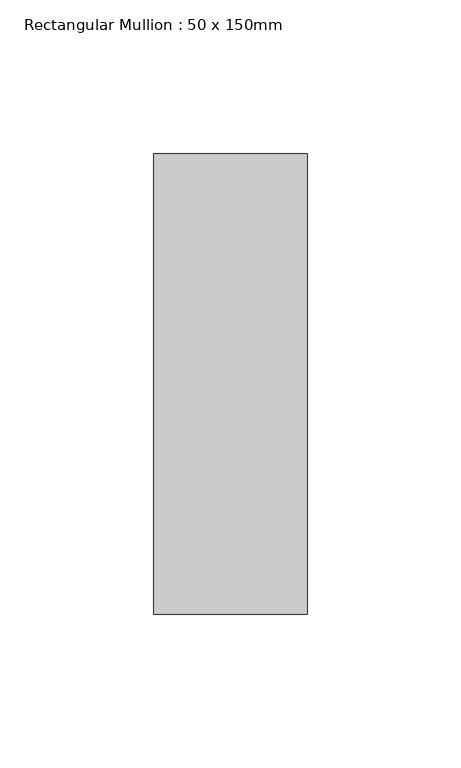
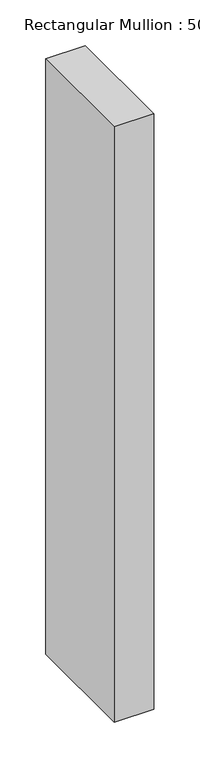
"""IFC4 building model written with IfcOpenShell, lengths in millimetres: member geometry, Rectangular Mullion : 50 x 150mm."""

from ifc_helpers import new_model, si_unit, frame, origin, place, context, project, spatial, polyline, outline, extrude, source, transform, mapped, element, save


def rectangular_mullion_50_x_150mm_0eb9a8c5(model_context):
    return source(origin(), model_context, "Body", "SweptSolid", [
        extrude(outline(polyline([(0.0, 75.0), (0.0, -75.0), (-50.0, -75.0), (-50.0, 75.0), (0.0, 75.0)])), frame((0.0, 0.0, -794.6033438), z_axis=(0.0, 0.0, 1.0), x_axis=(1.0, 0.0, 0.0)), (0.0, 0.0, 1.0), 794.6033438),
    ])


if __name__ == "__main__":
    model = new_model("IFC4")
    model_context = context("Model", 3, world=origin())
    ifc_project = project(units=[si_unit("LENGTHUNIT", "METRE", prefix="MILLI")], contexts=[model_context])
    site = spatial("IfcSite", under=ifc_project)
    building = spatial("IfcBuilding", under=site)
    placement = place(None, origin())
    rectangular_mullion_50_x_150mm_shape = rectangular_mullion_50_x_150mm_0eb9a8c5(model_context)
    element("IfcMember", 1, ObjectType="Rectangular Mullion : 50 x 150mm", at=placement, inside=building, context=model_context, shape_type="MappedRepresentation", body=[
        mapped(rectangular_mullion_50_x_150mm_shape, transform((0.0, 0.0, 0.0), x_axis=(1.0, 0.0, 0.0), y_axis=(0.0, 1.0, 0.0), z_axis=(0.0, 0.0, 1.0))),
    ])
    save(model, "model.ifc")
